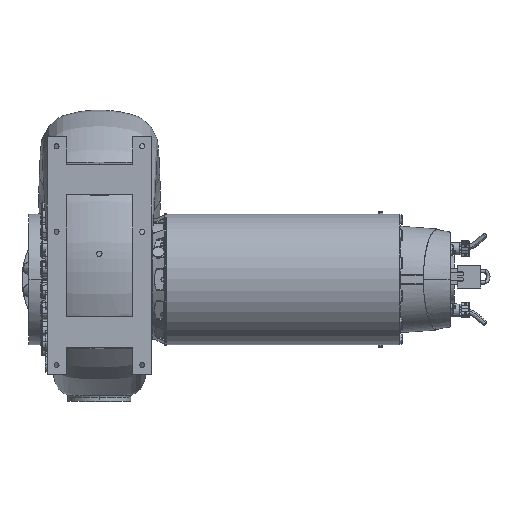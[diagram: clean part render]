
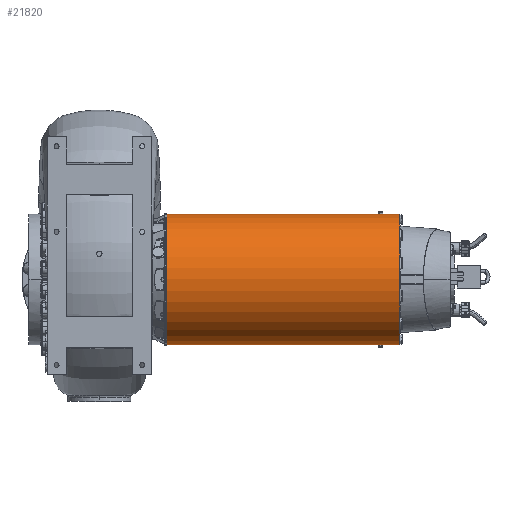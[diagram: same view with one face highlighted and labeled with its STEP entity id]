
A CAD part, front view. The second image highlights one B-rep face of the part: STEP entity #21820.
In plain terms, the highlighted cylindrical face has radius 344 mm (diameter 688 mm), a partial arc.
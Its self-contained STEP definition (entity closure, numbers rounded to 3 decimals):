
#1036 = DIRECTION ( 'NONE',  ( 1., 0., 0. ) ) ;
#16309 = EDGE_CURVE ( 'NONE', #233679, #152260, #108938, .T. ) ;
#17817 =( BOUNDED_CURVE ( )  B_SPLINE_CURVE ( 3, ( #95348, #73668, #116983, #267479 ),
 .UNSPECIFIED., .F., .F. ) 
 B_SPLINE_CURVE_WITH_KNOTS ( ( 4, 4 ),
 ( 1.543, 1.571 ),
 .UNSPECIFIED. ) 
 CURVE ( )  GEOMETRIC_REPRESENTATION_ITEM ( )  RATIONAL_B_SPLINE_CURVE ( ( 1., 1., 1., 1. ) ) 
 REPRESENTATION_ITEM ( '' )  );
#21057 = VERTEX_POINT ( 'NONE', #220847 ) ;
#21820 = ADVANCED_FACE ( 'NONE', ( #97679 ), #185126, .T. ) ;
#22933 = LINE ( 'NONE', #43368, #73300 ) ;
#31345 = CARTESIAN_POINT ( 'NONE',  ( 2088.349, -1250., -344. ) ) ;
#36265 = CARTESIAN_POINT ( 'NONE',  ( 1853.485, -1259.5, -343.869 ) ) ;
#43368 = CARTESIAN_POINT ( 'NONE',  ( 2088.349, -1250., 344. ) ) ;
#47329 = VECTOR ( 'NONE', #188419, 1000. ) ;
#47351 = CARTESIAN_POINT ( 'NONE',  ( 1853.485, -1259.5, 343.869 ) ) ;
#49982 = CARTESIAN_POINT ( 'NONE',  ( 1857.141, -1253.167, -344. ) ) ;
#53547 = VERTEX_POINT ( 'NONE', #69387 ) ;
#57464 = EDGE_CURVE ( 'NONE', #233679, #21057, #22933, .T. ) ;
#59714 = DIRECTION ( 'NONE',  ( 1., 0., 0. ) ) ;
#60421 = ORIENTED_EDGE ( 'NONE', *, *, #120497, .T. ) ;
#63648 = EDGE_CURVE ( 'NONE', #204904, #137211, #205694, .T. ) ;
#64208 = VERTEX_POINT ( 'NONE', #126293 ) ;
#64500 = CARTESIAN_POINT ( 'NONE',  ( 1948., -1250., -344. ) ) ;
#67055 = CARTESIAN_POINT ( 'NONE',  ( 1948., -1250., 0. ) ) ;
#69133 = VERTEX_POINT ( 'NONE', #93926 ) ;
#69387 = CARTESIAN_POINT ( 'NONE',  ( 723., -1250., -344. ) ) ;
#70961 = CARTESIAN_POINT ( 'NONE',  ( 1837.03, -1250., 344. ) ) ;
#73300 = VECTOR ( 'NONE', #1036, 1000. ) ;
#73668 = CARTESIAN_POINT ( 'NONE',  ( 1840.687, -1256.334, -343.956 ) ) ;
#75734 = VERTEX_POINT ( 'NONE', #215392 ) ;
#75759 = ORIENTED_EDGE ( 'NONE', *, *, #16309, .T. ) ;
#78953 = VECTOR ( 'NONE', #59714, 1000. ) ;
#81399 = EDGE_CURVE ( 'NONE', #69133, #75734, #184481, .T. ) ;
#85552 = AXIS2_PLACEMENT_3D ( 'NONE', #146854, #105437, #106367 ) ;
#85809 = DIRECTION ( 'NONE',  ( 1., 0., 0. ) ) ;
#87585 = EDGE_CURVE ( 'NONE', #152260, #69133, #104552, .T. ) ;
#88664 = CARTESIAN_POINT ( 'NONE',  ( 1858.97, -1250., -344. ) ) ;
#88742 = DIRECTION ( 'NONE',  ( 0., 0., -1. ) ) ;
#89735 = CARTESIAN_POINT ( 'NONE',  ( 1857.141, -1253.167, 344. ) ) ;
#92383 = CARTESIAN_POINT ( 'NONE',  ( 2088.349, -1250., 344. ) ) ;
#92615 = ORIENTED_EDGE ( 'NONE', *, *, #87585, .T. ) ;
#93926 = CARTESIAN_POINT ( 'NONE',  ( 1842.515, -1259.5, 343.869 ) ) ;
#95348 = CARTESIAN_POINT ( 'NONE',  ( 1842.515, -1259.5, -343.869 ) ) ;
#97679 = FACE_OUTER_BOUND ( 'NONE', #175530, .T. ) ;
#100148 = VECTOR ( 'NONE', #217603, 1000. ) ;
#104552 = LINE ( 'NONE', #192158, #47329 ) ;
#105437 = DIRECTION ( 'NONE',  ( 1., 0., 0. ) ) ;
#106367 = DIRECTION ( 'NONE',  ( 0., 0., -1. ) ) ;
#108938 =( BOUNDED_CURVE ( )  B_SPLINE_CURVE ( 3, ( #176218, #89735, #261834, #47351 ),
 .UNSPECIFIED., .F., .F. ) 
 B_SPLINE_CURVE_WITH_KNOTS ( ( 4, 4 ),
 ( 1.571, 1.598 ),
 .UNSPECIFIED. ) 
 CURVE ( )  GEOMETRIC_REPRESENTATION_ITEM ( )  RATIONAL_B_SPLINE_CURVE ( ( 1., 1., 1., 1. ) ) 
 REPRESENTATION_ITEM ( '' )  );
#111741 = ORIENTED_EDGE ( 'NONE', *, *, #63648, .T. ) ;
#112085 = AXIS2_PLACEMENT_3D ( 'NONE', #214698, #85809, #236279 ) ;
#114311 = EDGE_CURVE ( 'NONE', #64208, #165637, #17817, .T. ) ;
#114906 = CARTESIAN_POINT ( 'NONE',  ( 1855.313, -1256.334, -343.956 ) ) ;
#115155 = CIRCLE ( 'NONE', #112085, 344. ) ;
#116983 = CARTESIAN_POINT ( 'NONE',  ( 1838.859, -1253.167, -344. ) ) ;
#120497 = EDGE_CURVE ( 'NONE', #278523, #53547, #115155, .T. ) ;
#126293 = CARTESIAN_POINT ( 'NONE',  ( 1842.515, -1259.5, -343.869 ) ) ;
#130063 = ORIENTED_EDGE ( 'NONE', *, *, #114311, .F. ) ;
#136117 = LINE ( 'NONE', #92383, #193305 ) ;
#136896 = CARTESIAN_POINT ( 'NONE',  ( 1858.97, -1250., 344. ) ) ;
#137211 = VERTEX_POINT ( 'NONE', #64500 ) ;
#138759 = AXIS2_PLACEMENT_3D ( 'NONE', #67055, #217639, #88742 ) ;
#144590 = ORIENTED_EDGE ( 'NONE', *, *, #274563, .F. ) ;
#144982 = CIRCLE ( 'NONE', #138759, 344. ) ;
#146854 = CARTESIAN_POINT ( 'NONE',  ( 2088.349, -1250., 0. ) ) ;
#148474 = VECTOR ( 'NONE', #268390, 1000. ) ;
#152260 = VERTEX_POINT ( 'NONE', #181825 ) ;
#161786 = CARTESIAN_POINT ( 'NONE',  ( 1837.03, -1250., -344. ) ) ;
#165637 = VERTEX_POINT ( 'NONE', #161786 ) ;
#166969 = EDGE_CURVE ( 'NONE', #278523, #75734, #136117, .T. ) ;
#175530 = EDGE_LOOP ( 'NONE', ( #234349, #60421, #221829, #130063, #144590, #192184, #111741, #248166, #203740, #75759, #92615, #229958 ) ) ;
#176218 = CARTESIAN_POINT ( 'NONE',  ( 1858.97, -1250., 344. ) ) ;
#176366 = CARTESIAN_POINT ( 'NONE',  ( 1842.515, -1259.5, 343.869 ) ) ;
#180541 = VERTEX_POINT ( 'NONE', #36265 ) ;
#181825 = CARTESIAN_POINT ( 'NONE',  ( 1853.485, -1259.5, 343.869 ) ) ;
#184481 =( BOUNDED_CURVE ( )  B_SPLINE_CURVE ( 3, ( #176366, #263858, #199897, #70961 ),
 .UNSPECIFIED., .F., .F. ) 
 B_SPLINE_CURVE_WITH_KNOTS ( ( 4, 4 ),
 ( 1.543, 1.571 ),
 .UNSPECIFIED. ) 
 CURVE ( )  GEOMETRIC_REPRESENTATION_ITEM ( )  RATIONAL_B_SPLINE_CURVE ( ( 1., 1., 1., 1. ) ) 
 REPRESENTATION_ITEM ( '' )  );
#185126 = CYLINDRICAL_SURFACE ( 'NONE', #85552, 344. ) ;
#188419 = DIRECTION ( 'NONE',  ( -1., 0., 0. ) ) ;
#192158 = CARTESIAN_POINT ( 'NONE',  ( 2088.349, -1259.5, 343.869 ) ) ;
#192184 = ORIENTED_EDGE ( 'NONE', *, *, #257727, .F. ) ;
#193305 = VECTOR ( 'NONE', #221243, 1000. ) ;
#199897 = CARTESIAN_POINT ( 'NONE',  ( 1838.859, -1253.167, 344. ) ) ;
#203740 = ORIENTED_EDGE ( 'NONE', *, *, #57464, .F. ) ;
#204904 = VERTEX_POINT ( 'NONE', #257459 ) ;
#205694 = LINE ( 'NONE', #31345, #148474 ) ;
#213306 = EDGE_CURVE ( 'NONE', #53547, #165637, #250624, .T. ) ;
#214698 = CARTESIAN_POINT ( 'NONE',  ( 723., -1250., 0. ) ) ;
#215392 = CARTESIAN_POINT ( 'NONE',  ( 1837.03, -1250., 344. ) ) ;
#217603 = DIRECTION ( 'NONE',  ( -1., 0., 0. ) ) ;
#217639 = DIRECTION ( 'NONE',  ( 1., 0., 0. ) ) ;
#220847 = CARTESIAN_POINT ( 'NONE',  ( 1948., -1250., 344. ) ) ;
#221243 = DIRECTION ( 'NONE',  ( 1., 0., 0. ) ) ;
#221699 = CARTESIAN_POINT ( 'NONE',  ( 723., -1250., 344. ) ) ;
#221829 = ORIENTED_EDGE ( 'NONE', *, *, #213306, .T. ) ;
#222065 =( BOUNDED_CURVE ( )  B_SPLINE_CURVE ( 3, ( #88664, #49982, #114906, #265422 ),
 .UNSPECIFIED., .F., .F. ) 
 B_SPLINE_CURVE_WITH_KNOTS ( ( 4, 4 ),
 ( 1.571, 1.598 ),
 .UNSPECIFIED. ) 
 CURVE ( )  GEOMETRIC_REPRESENTATION_ITEM ( )  RATIONAL_B_SPLINE_CURVE ( ( 1., 1., 1., 1. ) ) 
 REPRESENTATION_ITEM ( '' )  );
#229958 = ORIENTED_EDGE ( 'NONE', *, *, #81399, .T. ) ;
#231914 = CARTESIAN_POINT ( 'NONE',  ( 2088.349, -1250., -344. ) ) ;
#233679 = VERTEX_POINT ( 'NONE', #136896 ) ;
#234349 = ORIENTED_EDGE ( 'NONE', *, *, #166969, .F. ) ;
#236279 = DIRECTION ( 'NONE',  ( 0., 0., -1. ) ) ;
#240094 = CARTESIAN_POINT ( 'NONE',  ( 2088.349, -1259.5, -343.869 ) ) ;
#242956 = EDGE_CURVE ( 'NONE', #21057, #137211, #144982, .T. ) ;
#248166 = ORIENTED_EDGE ( 'NONE', *, *, #242956, .F. ) ;
#250624 = LINE ( 'NONE', #231914, #78953 ) ;
#257459 = CARTESIAN_POINT ( 'NONE',  ( 1858.97, -1250., -344. ) ) ;
#257727 = EDGE_CURVE ( 'NONE', #204904, #180541, #222065, .T. ) ;
#261834 = CARTESIAN_POINT ( 'NONE',  ( 1855.313, -1256.334, 343.956 ) ) ;
#263858 = CARTESIAN_POINT ( 'NONE',  ( 1840.687, -1256.334, 343.956 ) ) ;
#265083 = LINE ( 'NONE', #240094, #100148 ) ;
#265422 = CARTESIAN_POINT ( 'NONE',  ( 1853.485, -1259.5, -343.869 ) ) ;
#267479 = CARTESIAN_POINT ( 'NONE',  ( 1837.03, -1250., -344. ) ) ;
#268390 = DIRECTION ( 'NONE',  ( 1., 0., 0. ) ) ;
#274563 = EDGE_CURVE ( 'NONE', #180541, #64208, #265083, .T. ) ;
#278523 = VERTEX_POINT ( 'NONE', #221699 ) ;
